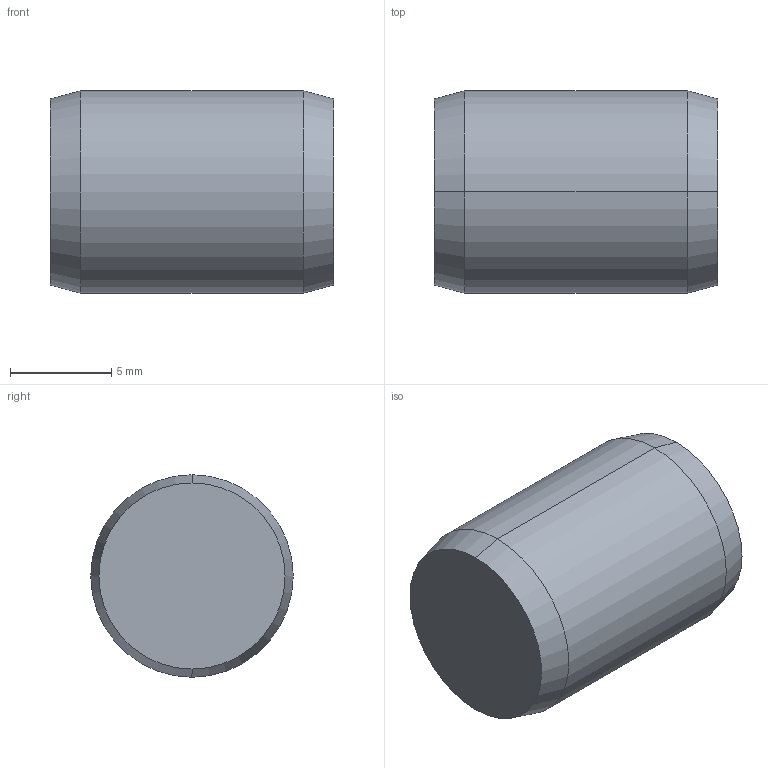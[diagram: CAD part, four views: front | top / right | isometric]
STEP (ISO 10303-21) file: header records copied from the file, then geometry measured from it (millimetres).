
FILE_DESCRIPTION (( 'STEP AP203' ), '1' );
FILE_NAME ('P1206.100-014 .step', '2017-06-14T08:30:02', ( 'User' ), ( '' ), 'SwSTEP 2.0', 'SolidWorks 2009', '' );
FILE_SCHEMA (( 'CONFIG_CONTROL_DESIGN' ));
Length unit declared in the file: millimetre
Products named in the file (1): P1206.100-014 
Bounding box: 14 x 10 x 10 mm (x, y, z)
Volume: 1081.1 mm3; surface area: 572.1 mm2
Topology: 1 solids, 1 shells, 8 faces, 14 edges, 8 vertices
Faces by surface type: cone 4, cylinder 2, plane 2
Entity records: 271 total; most frequent: DIRECTION 40, CARTESIAN_POINT 31, ORIENTED_EDGE 28, AXIS2_PLACEMENT_3D 17, EDGE_CURVE 14, PERSON_AND_ORGANIZATION 8, EDGE_LOOP 8, ADVANCED_FACE 8
